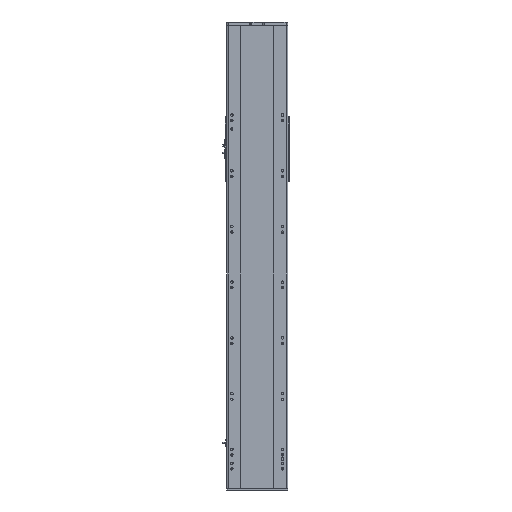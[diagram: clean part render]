
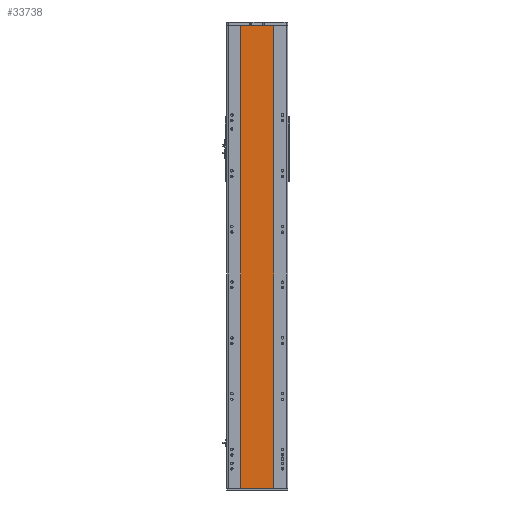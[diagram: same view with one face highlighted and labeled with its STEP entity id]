
A CAD part, front view. The second image highlights one B-rep face of the part: STEP entity #33738.
In plain terms, the highlighted planar face has unit normal (0, -1, 0).
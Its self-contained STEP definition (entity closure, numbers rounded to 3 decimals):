
#1043 = EDGE_CURVE ( 'NONE', #14761, #30723, #6537, .T. ) ;
#1537 = EDGE_CURVE ( 'NONE', #14761, #23435, #21227, .T. ) ;
#1949 = CARTESIAN_POINT ( 'NONE',  ( -59., 1., 830.5 ) ) ;
#2249 = CARTESIAN_POINT ( 'NONE',  ( 59., 1., -830.5 ) ) ;
#3280 = VECTOR ( 'NONE', #35473, 1000. ) ;
#3491 = CARTESIAN_POINT ( 'NONE',  ( -59., 1., -830.5 ) ) ;
#3556 = DIRECTION ( 'NONE',  ( -1., 0., 0. ) ) ;
#3806 = PLANE ( 'NONE',  #23252 ) ;
#4212 = VECTOR ( 'NONE', #23049, 1000. ) ;
#5241 = ORIENTED_EDGE ( 'NONE', *, *, #1043, .T. ) ;
#6537 = LINE ( 'NONE', #13326, #26902 ) ;
#7405 = LINE ( 'NONE', #15123, #33440 ) ;
#10545 = DIRECTION ( 'NONE',  ( 0., 0., -1. ) ) ;
#10546 = FACE_OUTER_BOUND ( 'NONE', #35245, .T. ) ;
#12098 = VERTEX_POINT ( 'NONE', #2249 ) ;
#13326 = CARTESIAN_POINT ( 'NONE',  ( -59., 1., 830.5 ) ) ;
#14761 = VERTEX_POINT ( 'NONE', #38904 ) ;
#14855 = EDGE_CURVE ( 'NONE', #30723, #12098, #7405, .T. ) ;
#14994 = ORIENTED_EDGE ( 'NONE', *, *, #1537, .F. ) ;
#15123 = CARTESIAN_POINT ( 'NONE',  ( -59., 1., -830.5 ) ) ;
#15546 = LINE ( 'NONE', #38232, #3280 ) ;
#16391 = DIRECTION ( 'NONE',  ( 1., 0., 0. ) ) ;
#21227 = LINE ( 'NONE', #1949, #4212 ) ;
#21628 = CARTESIAN_POINT ( 'NONE',  ( -59., 1., 830.5 ) ) ;
#23049 = DIRECTION ( 'NONE',  ( 1., 0., 0. ) ) ;
#23252 = AXIS2_PLACEMENT_3D ( 'NONE', #21628, #27864, #3556 ) ;
#23435 = VERTEX_POINT ( 'NONE', #30404 ) ;
#24054 = EDGE_CURVE ( 'NONE', #23435, #12098, #15546, .T. ) ;
#26902 = VECTOR ( 'NONE', #10545, 1000. ) ;
#27864 = DIRECTION ( 'NONE',  ( 0., 1., 0. ) ) ;
#28584 = ORIENTED_EDGE ( 'NONE', *, *, #24054, .F. ) ;
#30404 = CARTESIAN_POINT ( 'NONE',  ( 59., 1., 830.5 ) ) ;
#30723 = VERTEX_POINT ( 'NONE', #3491 ) ;
#31901 = ORIENTED_EDGE ( 'NONE', *, *, #14855, .T. ) ;
#33440 = VECTOR ( 'NONE', #16391, 1000. ) ;
#33738 = ADVANCED_FACE ( 'NONE', ( #10546 ), #3806, .F. ) ;
#35245 = EDGE_LOOP ( 'NONE', ( #31901, #28584, #14994, #5241 ) ) ;
#35473 = DIRECTION ( 'NONE',  ( 0., 0., -1. ) ) ;
#38232 = CARTESIAN_POINT ( 'NONE',  ( 59., 1., 830.5 ) ) ;
#38904 = CARTESIAN_POINT ( 'NONE',  ( -59., 1., 830.5 ) ) ;
